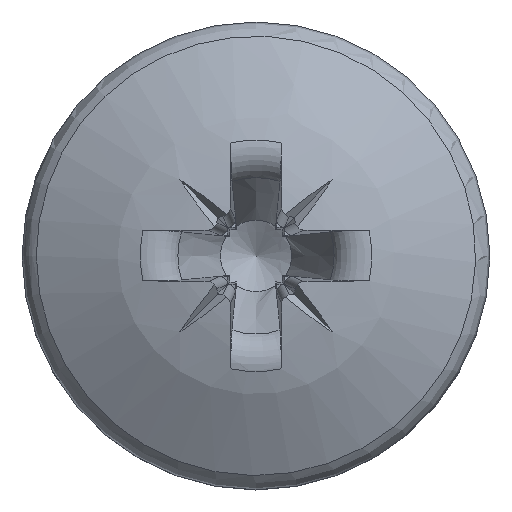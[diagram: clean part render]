
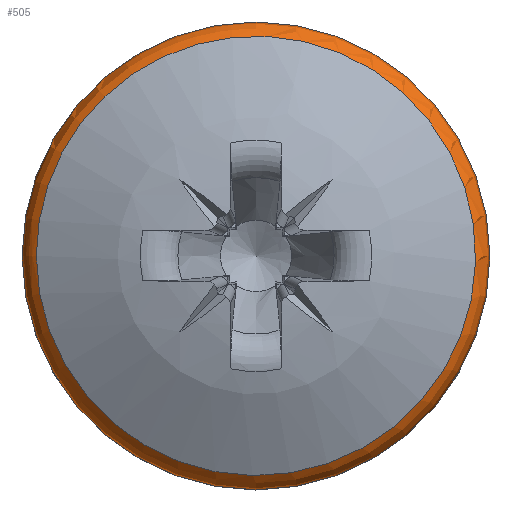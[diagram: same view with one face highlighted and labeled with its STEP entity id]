
A CAD part, top view. The second image highlights one B-rep face of the part: STEP entity #505.
In plain terms, the highlighted toroidal (fillet/blend) face has major radius 3.813 mm and minor radius 0.587 mm.
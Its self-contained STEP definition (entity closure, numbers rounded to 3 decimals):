
#411=TOROIDAL_SURFACE('',#2305,3.813,0.587);
#427=FACE_BOUND('',#789,.T.);
#428=FACE_BOUND('',#790,.T.);
#505=ADVANCED_FACE('',(#427,#428),#411,.T.);
#789=EDGE_LOOP('',(#1257));
#790=EDGE_LOOP('',(#1258));
#866=CIRCLE('',#2190,4.132);
#891=CIRCLE('',#2220,4.4);
#1257=ORIENTED_EDGE('',*,*,#1809,.F.);
#1258=ORIENTED_EDGE('',*,*,#1768,.F.);
#1577=VERTEX_POINT('',#4207);
#1616=VERTEX_POINT('',#4451);
#1768=EDGE_CURVE('',#1577,#1577,#866,.T.);
#1809=EDGE_CURVE('',#1616,#1616,#891,.T.);
#2190=AXIS2_PLACEMENT_3D('',#4206,#2323,#2324);
#2220=AXIS2_PLACEMENT_3D('',#4450,#2384,#2385);
#2305=AXIS2_PLACEMENT_3D('',#4894,#2614,#2615);
#2323=DIRECTION('',(0.,0.,1.));
#2324=DIRECTION('',(-1.,0.,0.));
#2384=DIRECTION('',(0.,0.,-1.));
#2385=DIRECTION('',(-1.,0.,0.));
#2614=DIRECTION('',(0.,0.,-1.));
#2615=DIRECTION('',(-1.,0.,0.));
#4206=CARTESIAN_POINT('',(0.,0.,2.282));
#4207=CARTESIAN_POINT('',(-4.132,0.,2.282));
#4450=CARTESIAN_POINT('',(0.,0.,1.789));
#4451=CARTESIAN_POINT('',(-4.4,0.,1.789));
#4894=CARTESIAN_POINT('',(0.,0.,1.789));
